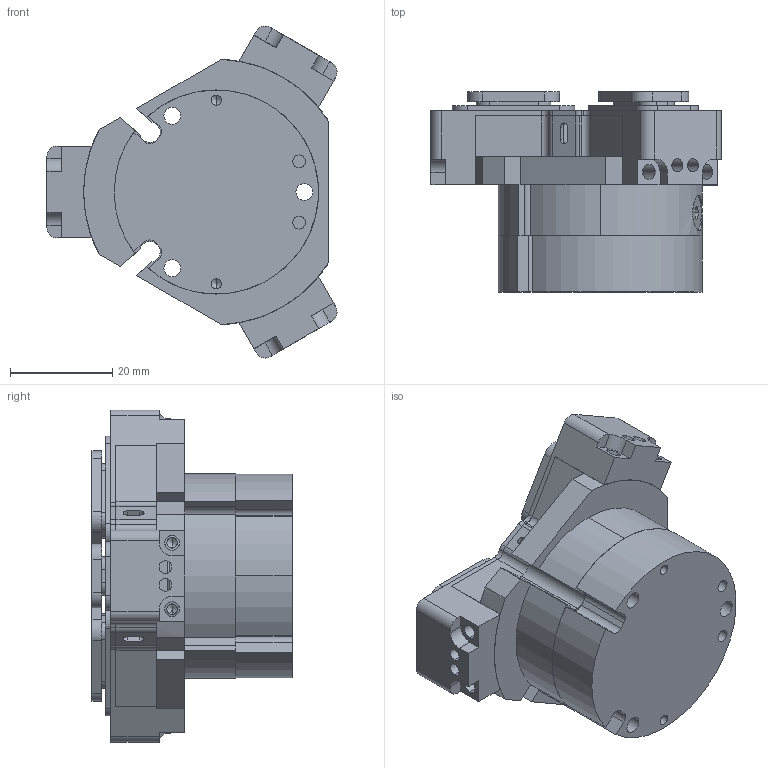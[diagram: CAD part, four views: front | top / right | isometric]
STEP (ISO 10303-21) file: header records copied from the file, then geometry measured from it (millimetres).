
FILE_DESCRIPTION (( 'STEP AP214' ), '1' );
FILE_NAME ('THN-40C-1-IS-SD.STEP', '2021-03-09T10:35:02', ( '' ), ( '' ), 'SwSTEP 2.0', 'SolidWorks 2016', '' );
FILE_SCHEMA (( 'AUTOMOTIVE_DESIGN' ));
Length unit declared in the file: millimetre
Products named in the file (7): THN-40C-1-IS-SD; THN-40A-1-IS-SD-06; THN-40A-1-IS-SD-05; THN-40A-1-IS-SD-04; THN-40A-1-IS-SD-02; THN-40C-1-IS-SD-03; THN-40C-1-IS-SD-01
Assembly tree (12 placements, depth 2):
  THN-40C-1-IS-SD
    THN-40C-1-IS-SD-01
    THN-40C-1-IS-SD-03
    THN-40A-1-IS-SD-02  x3
    THN-40A-1-IS-SD-04
    THN-40A-1-IS-SD-05  x3
    THN-40A-1-IS-SD-06  x3
Bounding box: 56.86 x 39.2 x 65.04 mm (x, y, z)
Volume: 49837.2 mm3; surface area: 29610.4 mm2
Topology: 12 solids, 12 shells, 821 faces, 2229 edges, 1424 vertices
Faces by surface type: plane 360, cylinder 333, cone 124, bspline 4
Entity records: 25227 total; most frequent: CARTESIAN_POINT 8013, DIRECTION 3457, ORIENTED_EDGE 3322, EDGE_CURVE 1661, AXIS2_PLACEMENT_3D 1240, VERTEX_POINT 1088, LINE 977, VECTOR 977
